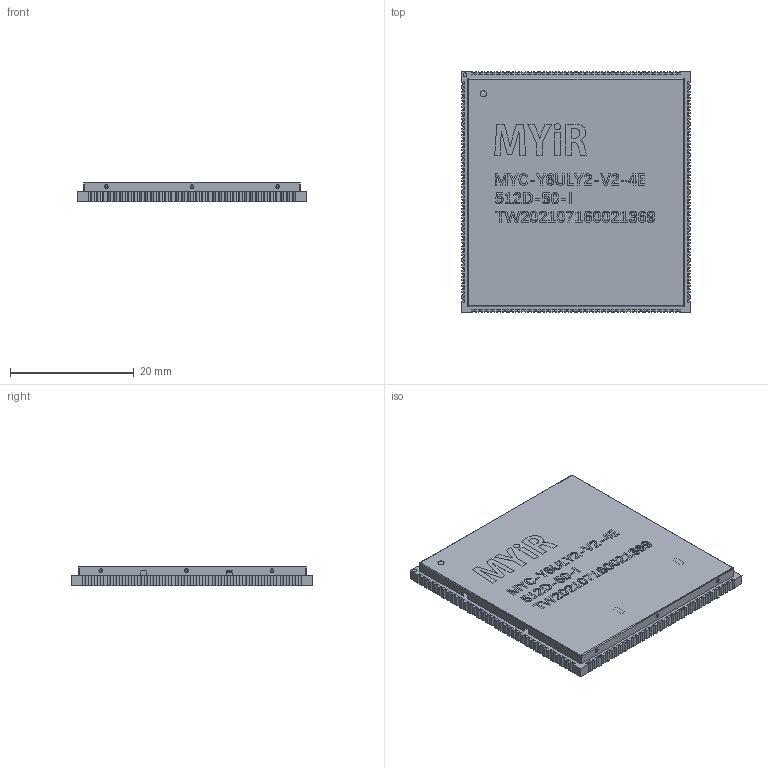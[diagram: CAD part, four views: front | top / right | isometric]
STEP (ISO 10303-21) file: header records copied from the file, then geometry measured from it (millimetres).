
FILE_DESCRIPTION (( 'STEP AP214' ), '1' );
FILE_NAME ('MYC-Y6ULX-220422-SW.STEP', '2022-04-22T10:25:19', ( '' ), ( '' ), 'SwSTEP 2.0', 'SolidWorks 2022', '' );
FILE_SCHEMA (( 'AUTOMOTIVE_DESIGN' ));
Length unit declared in the file: millimetre
Products named in the file (28): Solid.stp; C0603.stp; TEST0_8smd.stp; FBGA96.stp; COMPONENTS.stp; TEST0_8-SMD.stp; L2520.stp; L2X2_5.stp; SOT-23.stp; MYC-Y6ULX-PCBA-1.stp; OS3225.stp; SHIELD_SEG_37X39.stp; OSCCC320X250X80L90X100.stp; BGA289_0P8_14X14.stp; BGA153.stp; R0402.stp; OS3215.stp; TSOT23-5.stp; MYC-Y6ULX-220422.stp; QFN24.stp; MYC-37X39.stp; C0402.stp; TSOP48.stp; RES4X0402.stp; SOT-23-3.stp; MYC-Y6ULX-220422-SW; MYC-Y6ULX.stp; FB0402.stp
Assembly tree (173 placements, depth 5):
  MYC-Y6ULX-220422-SW
    MYC-Y6ULX-220422.stp
      COMPONENTS.stp
        MYC-37X39.stp
          MYC-Y6ULX-PCBA-1.stp
        SHIELD_SEG_37X39.stp
          MYC-Y6ULX.stp
        TEST0_8-SMD.stp  x6
          TEST0_8smd.stp
        L2X2_5.stp  x2
          L2520.stp
        SOT-23.stp
          SOT-23-3.stp
        OS3215.stp
          Solid.stp
        OS3225.stp
          OSCCC320X250X80L90X100.stp
        R0402.stp  x52
        C0402.stp  x81
        BGA153.stp
        QFN24.stp
        RES4X0402.stp  x4
        FB0402.stp  x2
        TSOP48.stp
        FBGA96.stp
        TSOT23-5.stp  x2
        C0603.stp  x5
        BGA289_0P8_14X14.stp
Bounding box: 37 x 39 x 3.23 mm (x, y, z)
Volume: 2538.7 mm3; surface area: 9370.9 mm2
Topology: 24 solids, 175 shells, 3388 faces, 8935 edges, 5816 vertices
Faces by surface type: plane 2738, cylinder 294, bspline 294, torus 38, sphere 24
Entity records: 107058 total; most frequent: CARTESIAN_POINT 34911, ORIENTED_EDGE 13924, DIRECTION 11759, EDGE_CURVE 6973, LINE 5759, VECTOR 5759, VERTEX_POINT 4620, AXIS2_PLACEMENT_3D 3000
